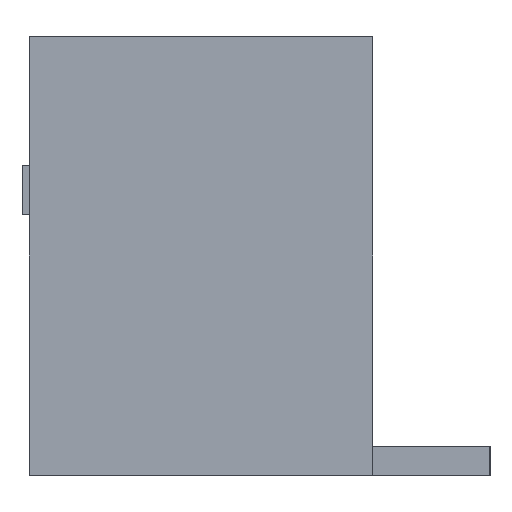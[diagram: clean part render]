
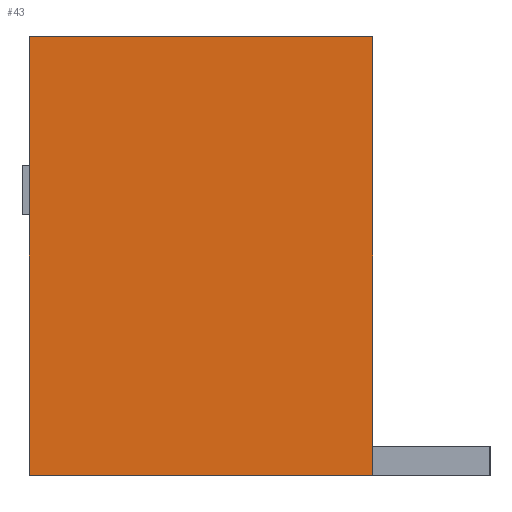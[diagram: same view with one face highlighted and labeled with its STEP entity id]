
A CAD part, left-side view. The second image highlights one B-rep face of the part: STEP entity #43.
In plain terms, the highlighted planar face has unit normal (-1, 0, 0).
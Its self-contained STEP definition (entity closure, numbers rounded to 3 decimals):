
#43 = ADVANCED_FACE('',(#44),#78,.F.);
#44 = FACE_BOUND('',#45,.F.);
#45 = EDGE_LOOP('',(#46,#56,#64,#72));
#46 = ORIENTED_EDGE('',*,*,#47,.F.);
#47 = EDGE_CURVE('',#48,#50,#52,.T.);
#48 = VERTEX_POINT('',#49);
#49 = CARTESIAN_POINT('',(-3.4,-1.175,0.));
#50 = VERTEX_POINT('',#51);
#51 = CARTESIAN_POINT('',(-3.4,-1.175,3.));
#52 = LINE('',#53,#54);
#53 = CARTESIAN_POINT('',(-3.4,-1.175,0.));
#54 = VECTOR('',#55,1.);
#55 = DIRECTION('',(0.,0.,1.));
#56 = ORIENTED_EDGE('',*,*,#57,.T.);
#57 = EDGE_CURVE('',#48,#58,#60,.T.);
#58 = VERTEX_POINT('',#59);
#59 = CARTESIAN_POINT('',(-3.4,1.175,0.));
#60 = LINE('',#61,#62);
#61 = CARTESIAN_POINT('',(-3.4,-1.175,0.));
#62 = VECTOR('',#63,1.);
#63 = DIRECTION('',(-0.,1.,0.));
#64 = ORIENTED_EDGE('',*,*,#65,.T.);
#65 = EDGE_CURVE('',#58,#66,#68,.T.);
#66 = VERTEX_POINT('',#67);
#67 = CARTESIAN_POINT('',(-3.4,1.175,3.));
#68 = LINE('',#69,#70);
#69 = CARTESIAN_POINT('',(-3.4,1.175,0.));
#70 = VECTOR('',#71,1.);
#71 = DIRECTION('',(0.,0.,1.));
#72 = ORIENTED_EDGE('',*,*,#73,.F.);
#73 = EDGE_CURVE('',#50,#66,#74,.T.);
#74 = LINE('',#75,#76);
#75 = CARTESIAN_POINT('',(-3.4,-1.175,3.));
#76 = VECTOR('',#77,1.);
#77 = DIRECTION('',(-0.,1.,0.));
#78 = PLANE('',#79);
#79 = AXIS2_PLACEMENT_3D('',#80,#81,#82);
#80 = CARTESIAN_POINT('',(-3.4,-1.175,0.));
#81 = DIRECTION('',(1.,0.,-0.));
#82 = DIRECTION('',(0.,0.,1.));
